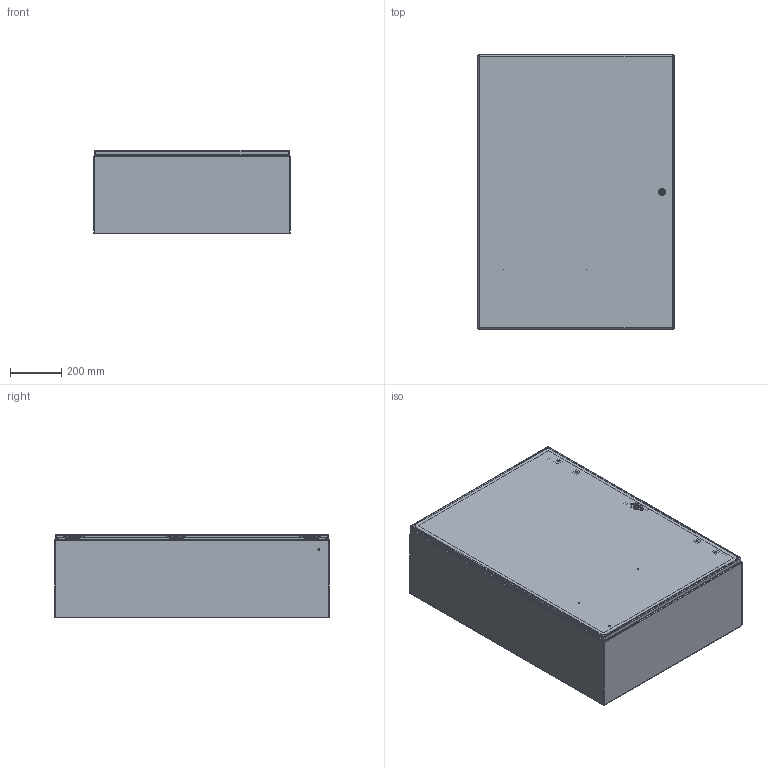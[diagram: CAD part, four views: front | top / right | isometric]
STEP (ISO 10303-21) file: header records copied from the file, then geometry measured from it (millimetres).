
FILE_DESCRIPTION (( 'STEP AP203' ), '1' );
FILE_NAME ('29425.step', '2015-03-30T06:29:13', ( '' ), ( '' ), 'SwSTEP 2.0', 'SolidWorks 2010', '' );
FILE_SCHEMA (( 'CONFIG_CONTROL_DESIGN' ));
Products named in the file (32): 29425; 89117161; 89117160_default; 89117159_default; 89117158_default; 23271001_After Weld; 89117081_assy; 89117080_weldment; 89117079; 99401225; 87931362_87931362; 87408407_Unlocked; 64102001_Latch Open; 87540678; 64210001; 64202001; 64208001; 64205001; 87541995; 87541994_Installed Height; 64206004; 64207001; 64103001; 99411834; 89117082; 87543027; 89076399; 89076193; 89056623; 87929507; 87929767; 87929769_Installed on Pin
Assembly tree (51 placements, depth 5):
  29425
    87543027  x3
    89076399  x3
      89076193
      89056623
    89117161
      89117160_default
      23271001_After Weld  x6
      89117159_default
      89117158_default
      99401225
    87929507  x3
      87929767
      87929769_Installed on Pin
    89117081_assy
      87408407_Unlocked
        64103001  x4
        64102001_Latch Open
          64202001
          87541994_Installed Height
          64205001  x2
          64208001
          87541995
          87540678
          64210001
        64207001  x2
        99411834  x2
        64206004  x2
      89117080_weldment
        99401225
        87931362_87931362  x2
        89117079
      89117082
Bounding box: 762 x 1066.8 x 325.5 mm (x, y, z)
Volume: 5622111.4 mm3; surface area: 6027069.3 mm2
Topology: 49 solids, 49 shells, 3293 faces, 8568 edges, 5398 vertices
Faces by surface type: plane 1478, cylinder 903, bspline 626, torus 163, cone 87, sphere 36
Entity records: 72587 total; most frequent: CARTESIAN_POINT 25842, ORIENTED_EDGE 9372, DIRECTION 8208, EDGE_CURVE 4686, VERTEX_POINT 2963, AXIS2_PLACEMENT_3D 2769, LINE 2670, VECTOR 2670
